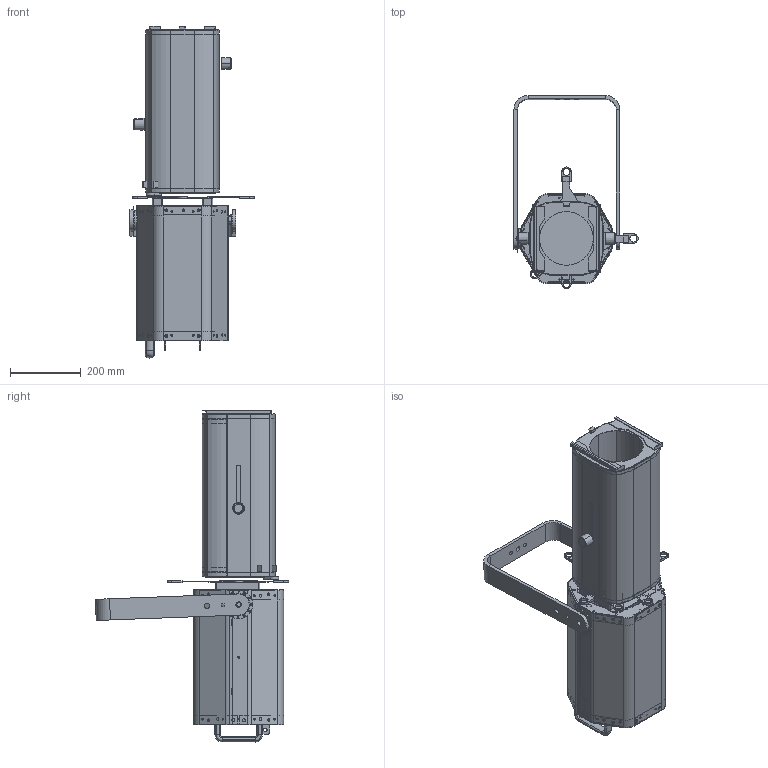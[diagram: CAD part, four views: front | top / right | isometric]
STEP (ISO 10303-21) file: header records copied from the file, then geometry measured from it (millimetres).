
FILE_DESCRIPTION (( 'STEP AP214' ), '1' );
FILE_NAME ('671SX.STEP', '2025-03-19T10:00:39', ( '' ), ( '' ), 'SwSTEP 2.0', 'SolidWorks 2023', '' );
FILE_SCHEMA (( 'AUTOMOTIVE_DESIGN' ));
Length unit declared in the file: millimetre
Products named in the file (45): CAD client_300502 Capot de zoom 208x208_Rep 01; CAD client_205577 Corps de zoom 208-208_Rep 00; CAD client_407740 surmoulage bouton moleté bi Ø_Pour moulage; CAD client_304248 Plaque de fenetre lanterne; CAD client_300503 Raccord capot; CAD client_310858 Fenetre image rotative; Niche; CAD client_408687 Montage Couteau_Rep 01; Fourche; CAD client_304297 Glissière avant zoom coté droit_Coté droit; CAD client_310811 Presse couteaux 600SX; CAD client_301671 Flan AV zoom 208x208_Rep 02; Lanterne 67x; 671SX; CAD client_401016 Poignée de couteaux_Bleue; CAD client_404294 Couteaux SX_Rep 00; CAD client_410859 Blocage couteaux 600SX; CAD client_304297 Glissière avant zoom coté gauche_Coté gauche; IHM; CAD client_407739 bouchon siglé RJ Ø 29 bouton moleté bi Ø_RJ en creux Ø 29; CAD client_304254 Blocage couteaux; CAD client_310874 Capot de zoom de 611_611 SX; Capot BAS; CAD client_305499 Entretoise de fenetre SX_Coté Gauche ; CAD client_304204 Flan AR zoom 208x208_Rep 00; CAD client_304249 Plaque de fenetre zoom; Capot HAUT; CAD client_404339 Patte d''appui blocage couteaux_Rep 00; Rondelle graduee; CAD client_407741 Bouton moleté bi Ø_Avec pastille Ø 29 pour Ø 6.2; CAD client_310812 Fenetre image de 600SX; Poignée; CAD client_401016 Poignée de couteaux_Grise; CAD client_304298 Poussoir verrouillage porte filtre; CAD client_407740 surmoulage sur insert bouton moleté bi Ø_Partie surmoulée pour insert bi Ø; Canon de fourche; CAD client_304253 Plaque renfort AR zoom 208x208_Rep 00; CAD client_#_311119 Zoom 611SX; CAD client_#_311104 Carroserie  zoom 611 SX; Structure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
Assembly tree (49 placements, depth 7):
  671SX
    Lanterne 67x
      Structure
      IHM
      Niche
      Poignée
      Capot HAUT
      Capot BAS
      Rondelle graduee
      Fourche
      Canon de fourche
    CAD client_#_311119 Zoom 611SX
      CAD client_#_311104 Carroserie  zoom 611 SX
        CAD client_#_311103 Corps de zoom 611SX
          CAD client_301671 Flan AV zoom 208x208_Rep 02
          CAD client_304204 Flan AR zoom 208x208_Rep 00
          CAD client_300503 Raccord capot  x2
          CAD client_304253 Plaque renfort AR zoom 208x208_Rep 00
          CAD client_205577 Corps de zoom 208-208_Rep 00
          CAD client_404339 Patte d''appui blocage couteaux_Rep 00
        CAD client_310874 Capot de zoom de 611_611 SX
          CAD client_300502 Capot de zoom 208x208_Rep 01
      CAD client_304297 Glissière avant zoom coté droit_Coté droit
      CAD client_304297 Glissière avant zoom coté gauche_Coté gauche
      CAD client_304298 Poussoir verrouillage porte filtre
      CAD client_407741 Bouton moleté bi Ø_Avec pastille Ø 29 pour Ø 6.2  x2
        CAD client_407740 surmoulage bouton moleté bi Ø_Pour moulage
          CAD client_407740 surmoulage sur insert bouton moleté bi Ø_Partie surmoulée pour insert bi Ø
        CAD client_407739 bouchon siglé RJ Ø 29 bouton moleté bi Ø_RJ en creux Ø 29
    CAD client_310858 Fenetre image rotative
      CAD client_410813 Fenetre et couteaux de 600SX
        CAD client_310812 Fenetre image de 600SX
          CAD client_310811 Presse couteaux 600SX
            CAD client_304249 Plaque de fenetre zoom
              CAD client_304249 Plaque de fenetre zoom
          CAD client_304248 Plaque de fenetre lanterne
            CAD client_304248 Plaque de fenetre lanterne
          CAD client_305499 Entretoise de fenetre SX_Coté Gauche 
          CAD client_305499 Entretoise de fenetre SX_Coté droit
        CAD client_408687 Montage Couteau_Rep 01  x4
          CAD client_404294 Couteaux SX_Rep 00
          CAD client_401016 Poignée de couteaux_Grise
      CAD client_410859 Blocage couteaux 600SX
        CAD client_304254 Blocage couteaux
        CAD client_401016 Poignée de couteaux_Bleue
Bounding box: 352 x 547.34 x 941.01 mm (x, y, z)
Volume: 2340179.2 mm3; surface area: 2709495.4 mm2
Topology: 65 solids, 65 shells, 3543 faces, 8626 edges, 5384 vertices
Faces by surface type: plane 1663, cylinder 1381, bspline 224, cone 143, torus 132
Entity records: 118935 total; most frequent: CARTESIAN_POINT 34177, DIRECTION 17622, ORIENTED_EDGE 16872, EDGE_CURVE 8436, AXIS2_PLACEMENT_3D 6398, VERTEX_POINT 5268, VECTOR 4826, LINE 4826
